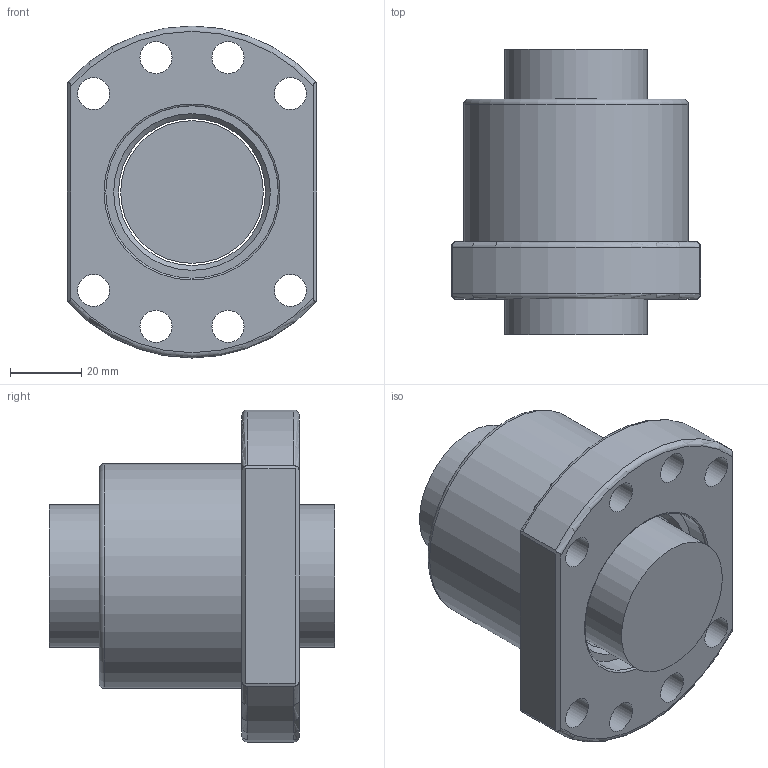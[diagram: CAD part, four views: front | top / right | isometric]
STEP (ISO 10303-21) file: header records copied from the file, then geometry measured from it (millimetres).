
FILE_DESCRIPTION(/* description */ (''),/* implementation_level */ '2;1');
FILE_NAME(/* name */ '4005.prt.step',/* time_stamp */ '2008-12-05T16:32:13+08:00',/* author */ (''),/* organization */ (''),/* preprocessor_version */ 'ST-DEVELOPER v11',/* originating_system */ 'SIEMENS UGS NX 6.0',/* authorisation */ '');
FILE_SCHEMA (('AUTOMOTIVE_DESIGN { 1 0 10303 214 1 1 1 1 }'));
Length unit declared in the file: millimetre
Products named in the file (1): 4005
Bounding box: 70 x 80 x 93 mm (x, y, z)
Volume: 228307.1 mm3; surface area: 43344.7 mm2
Topology: 2 solids, 2 shells, 41 faces, 108 edges, 74 vertices
Faces by surface type: plane 17, cylinder 15, torus 7, cone 2
Full cylindrical faces by diameter (mm): 9 x8, 39.95 x1, 41.2 x1, 48.3 x2, 63 x1
Entity records: 1374 total; most frequent: CARTESIAN_POINT 424, DIRECTION 186, ORIENTED_EDGE 158, AXIS2_PLACEMENT_3D 81, EDGE_LOOP 80, EDGE_CURVE 79, VERTEX_POINT 63, FACE_BOUND 62
